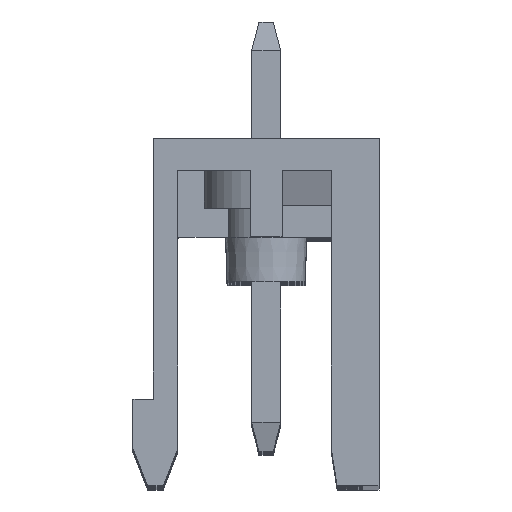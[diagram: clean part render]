
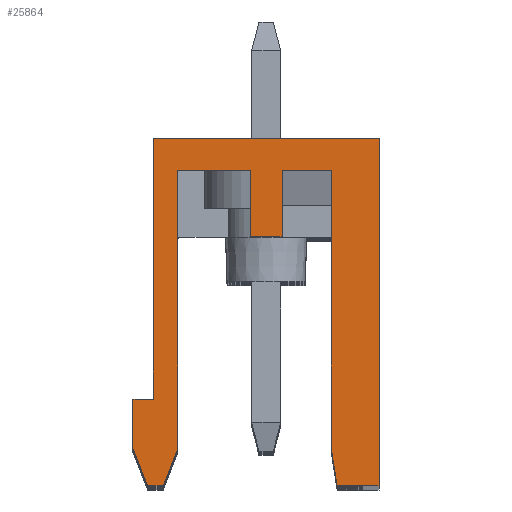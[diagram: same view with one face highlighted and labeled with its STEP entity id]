
A CAD part, top view. The second image highlights one B-rep face of the part: STEP entity #25864.
In plain terms, the highlighted planar face has unit normal (0, 0, 1).
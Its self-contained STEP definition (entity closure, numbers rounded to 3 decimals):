
#234 = LINE ( 'NONE', #22060, #21637 ) ;
#684 = DIRECTION ( 'NONE',  ( 0., 0., 1. ) ) ;
#1421 = LINE ( 'NONE', #19811, #16154 ) ;
#1643 = CARTESIAN_POINT ( 'NONE',  ( 0.55, 10.9, 81.28 ) ) ;
#2100 = VECTOR ( 'NONE', #17251, 1000. ) ;
#2362 = EDGE_LOOP ( 'NONE', ( #31686, #16369, #15954, #36707, #12159, #26760, #14113, #8606, #8166, #11116, #8283, #37420, #20541, #34530, #33192, #8076, #26877 ) ) ;
#2365 = EDGE_CURVE ( 'NONE', #8182, #34683, #20418, .T. ) ;
#2398 = CARTESIAN_POINT ( 'NONE',  ( -4.1, 0., 81.28 ) ) ;
#2531 = CARTESIAN_POINT ( 'NONE',  ( 0.55, 8.6, 81.28 ) ) ;
#2707 = LINE ( 'NONE', #24528, #34017 ) ;
#2950 = CARTESIAN_POINT ( 'NONE',  ( 0.55, 8.6, 81.28 ) ) ;
#3028 = CARTESIAN_POINT ( 'NONE',  ( 0.55, 10.9, 81.28 ) ) ;
#3662 = LINE ( 'NONE', #39877, #27211 ) ;
#3708 = CARTESIAN_POINT ( 'NONE',  ( -3.55, 0., 81.28 ) ) ;
#4189 = VERTEX_POINT ( 'NONE', #34917 ) ;
#5408 = VERTEX_POINT ( 'NONE', #22411 ) ;
#6280 = VERTEX_POINT ( 'NONE', #1643 ) ;
#6688 = VERTEX_POINT ( 'NONE', #35164 ) ;
#7235 = VERTEX_POINT ( 'NONE', #23163 ) ;
#7827 = VERTEX_POINT ( 'NONE', #38218 ) ;
#8076 = ORIENTED_EDGE ( 'NONE', *, *, #23830, .T. ) ;
#8166 = ORIENTED_EDGE ( 'NONE', *, *, #35020, .F. ) ;
#8182 = VERTEX_POINT ( 'NONE', #20144 ) ;
#8283 = ORIENTED_EDGE ( 'NONE', *, *, #30448, .T. ) ;
#8586 = CARTESIAN_POINT ( 'NONE',  ( 0.55, 8.6, 81.28 ) ) ;
#8606 = ORIENTED_EDGE ( 'NONE', *, *, #13466, .F. ) ;
#8608 = CARTESIAN_POINT ( 'NONE',  ( 2.45, 0., 81.28 ) ) ;
#9103 = LINE ( 'NONE', #36612, #24222 ) ;
#9141 = DIRECTION ( 'NONE',  ( -1., 0., 0. ) ) ;
#9282 = DIRECTION ( 'NONE',  ( 1., 0., 0. ) ) ;
#9648 = DIRECTION ( 'NONE',  ( -1., 0., 0. ) ) ;
#9724 = EDGE_CURVE ( 'NONE', #13902, #7235, #29948, .T. ) ;
#9977 = LINE ( 'NONE', #12818, #18402 ) ;
#10463 = VERTEX_POINT ( 'NONE', #8608 ) ;
#10576 = CARTESIAN_POINT ( 'NONE',  ( -0.55, 10.9, 81.28 ) ) ;
#11116 = ORIENTED_EDGE ( 'NONE', *, *, #24545, .F. ) ;
#11731 = LINE ( 'NONE', #17403, #25940 ) ;
#12159 = ORIENTED_EDGE ( 'NONE', *, *, #9724, .T. ) ;
#12818 = CARTESIAN_POINT ( 'NONE',  ( 2.25, 10.9, 81.28 ) ) ;
#13313 = VECTOR ( 'NONE', #9282, 1000. ) ;
#13374 = DIRECTION ( 'NONE',  ( -0.359, 0.933, 0. ) ) ;
#13466 = EDGE_CURVE ( 'NONE', #25371, #25822, #234, .T. ) ;
#13902 = VERTEX_POINT ( 'NONE', #15548 ) ;
#14113 = ORIENTED_EDGE ( 'NONE', *, *, #15470, .T. ) ;
#14225 = LINE ( 'NONE', #10576, #2100 ) ;
#14577 = DIRECTION ( 'NONE',  ( 0., -1., 0. ) ) ;
#14783 = CARTESIAN_POINT ( 'NONE',  ( -4.6, 3., 81.28 ) ) ;
#15146 = LINE ( 'NONE', #3028, #13313 ) ;
#15470 = EDGE_CURVE ( 'NONE', #35078, #25822, #37149, .T. ) ;
#15548 = CARTESIAN_POINT ( 'NONE',  ( -4.6, 3., 81.28 ) ) ;
#15833 = VECTOR ( 'NONE', #28235, 1000. ) ;
#15954 = ORIENTED_EDGE ( 'NONE', *, *, #2365, .T. ) ;
#16154 = VECTOR ( 'NONE', #25879, 1000. ) ;
#16369 = ORIENTED_EDGE ( 'NONE', *, *, #28142, .T. ) ;
#16639 = DIRECTION ( 'NONE',  ( 1., 0., 0. ) ) ;
#17251 = DIRECTION ( 'NONE',  ( -1., 0., 0. ) ) ;
#17403 = CARTESIAN_POINT ( 'NONE',  ( 2.25, 1.3, 81.28 ) ) ;
#17592 = CARTESIAN_POINT ( 'NONE',  ( -3.05, 1.3, 81.28 ) ) ;
#17757 = LINE ( 'NONE', #2398, #17824 ) ;
#17824 = VECTOR ( 'NONE', #13374, 1000. ) ;
#18094 = LINE ( 'NONE', #2531, #28546 ) ;
#18402 = VECTOR ( 'NONE', #28583, 1000. ) ;
#18839 = EDGE_CURVE ( 'NONE', #30950, #6280, #30458, .T. ) ;
#19135 = CARTESIAN_POINT ( 'NONE',  ( 3.9, 12., 81.28 ) ) ;
#19811 = CARTESIAN_POINT ( 'NONE',  ( 3.9, 0., 81.28 ) ) ;
#19868 = CARTESIAN_POINT ( 'NONE',  ( 3.9, 12., 81.28 ) ) ;
#19872 = CARTESIAN_POINT ( 'NONE',  ( -10.2, 16.267, 81.28 ) ) ;
#20144 = CARTESIAN_POINT ( 'NONE',  ( -3.9, 12., 81.28 ) ) ;
#20418 = LINE ( 'NONE', #36204, #27104 ) ;
#20541 = ORIENTED_EDGE ( 'NONE', *, *, #18839, .T. ) ;
#20574 = VERTEX_POINT ( 'NONE', #19868 ) ;
#20695 = DIRECTION ( 'NONE',  ( 0., -1., 0. ) ) ;
#21033 = DIRECTION ( 'NONE',  ( 1., 0., 0. ) ) ;
#21040 = EDGE_CURVE ( 'NONE', #5408, #20574, #1421, .T. ) ;
#21637 = VECTOR ( 'NONE', #34402, 1000. ) ;
#21969 = CARTESIAN_POINT ( 'NONE',  ( -4.1, 0., 81.28 ) ) ;
#22060 = CARTESIAN_POINT ( 'NONE',  ( -3.05, 1.3, 81.28 ) ) ;
#22143 = AXIS2_PLACEMENT_3D ( 'NONE', #19872, #684, #16639 ) ;
#22411 = CARTESIAN_POINT ( 'NONE',  ( 3.9, 0., 81.28 ) ) ;
#23041 = EDGE_CURVE ( 'NONE', #30950, #31277, #18094, .T. ) ;
#23163 = CARTESIAN_POINT ( 'NONE',  ( -4.6, 1.3, 81.28 ) ) ;
#23612 = EDGE_CURVE ( 'NONE', #34683, #13902, #3662, .T. ) ;
#23830 = EDGE_CURVE ( 'NONE', #24179, #10463, #11731, .T. ) ;
#24142 = DIRECTION ( 'NONE',  ( -1., 0., 0. ) ) ;
#24179 = VERTEX_POINT ( 'NONE', #26593 ) ;
#24222 = VECTOR ( 'NONE', #21033, 1000. ) ;
#24528 = CARTESIAN_POINT ( 'NONE',  ( -3.05, 10.9, 81.28 ) ) ;
#24545 = EDGE_CURVE ( 'NONE', #6688, #7827, #14225, .T. ) ;
#25371 = VERTEX_POINT ( 'NONE', #17592 ) ;
#25822 = VERTEX_POINT ( 'NONE', #3708 ) ;
#25864 = ADVANCED_FACE ( 'NONE', ( #37890 ), #28383, .T. ) ;
#25879 = DIRECTION ( 'NONE',  ( 0., 1., 0. ) ) ;
#25940 = VECTOR ( 'NONE', #39636, 1000. ) ;
#26593 = CARTESIAN_POINT ( 'NONE',  ( 2.25, 1.3, 81.28 ) ) ;
#26760 = ORIENTED_EDGE ( 'NONE', *, *, #34035, .F. ) ;
#26877 = ORIENTED_EDGE ( 'NONE', *, *, #27657, .T. ) ;
#26884 = VECTOR ( 'NONE', #31959, 1000. ) ;
#27104 = VECTOR ( 'NONE', #32753, 1000. ) ;
#27108 = VECTOR ( 'NONE', #14577, 1000. ) ;
#27211 = VECTOR ( 'NONE', #9141, 1000. ) ;
#27657 = EDGE_CURVE ( 'NONE', #10463, #5408, #9103, .T. ) ;
#28142 = EDGE_CURVE ( 'NONE', #20574, #8182, #31870, .T. ) ;
#28235 = DIRECTION ( 'NONE',  ( 1., 0., 0. ) ) ;
#28383 = PLANE ( 'NONE',  #22143 ) ;
#28546 = VECTOR ( 'NONE', #24142, 1000. ) ;
#28583 = DIRECTION ( 'NONE',  ( 0., -1., 0. ) ) ;
#29948 = LINE ( 'NONE', #14783, #27108 ) ;
#29979 = CARTESIAN_POINT ( 'NONE',  ( -0.55, 8.6, 81.28 ) ) ;
#30448 = EDGE_CURVE ( 'NONE', #6688, #31277, #34601, .T. ) ;
#30458 = LINE ( 'NONE', #2950, #35427 ) ;
#30654 = EDGE_CURVE ( 'NONE', #6280, #4189, #15146, .T. ) ;
#30950 = VERTEX_POINT ( 'NONE', #8586 ) ;
#31086 = EDGE_CURVE ( 'NONE', #4189, #24179, #9977, .T. ) ;
#31277 = VERTEX_POINT ( 'NONE', #29979 ) ;
#31356 = VECTOR ( 'NONE', #9648, 1000. ) ;
#31686 = ORIENTED_EDGE ( 'NONE', *, *, #21040, .T. ) ;
#31870 = LINE ( 'NONE', #19135, #31356 ) ;
#31959 = DIRECTION ( 'NONE',  ( 0., -1., 0. ) ) ;
#32753 = DIRECTION ( 'NONE',  ( 0., -1., 0. ) ) ;
#33192 = ORIENTED_EDGE ( 'NONE', *, *, #31086, .T. ) ;
#34017 = VECTOR ( 'NONE', #20695, 1000. ) ;
#34035 = EDGE_CURVE ( 'NONE', #35078, #7235, #17757, .T. ) ;
#34235 = CARTESIAN_POINT ( 'NONE',  ( -4.1, 0., 81.28 ) ) ;
#34402 = DIRECTION ( 'NONE',  ( -0.359, -0.933, 0. ) ) ;
#34530 = ORIENTED_EDGE ( 'NONE', *, *, #30654, .T. ) ;
#34601 = LINE ( 'NONE', #38251, #26884 ) ;
#34683 = VERTEX_POINT ( 'NONE', #37912 ) ;
#34917 = CARTESIAN_POINT ( 'NONE',  ( 2.25, 10.9, 81.28 ) ) ;
#35020 = EDGE_CURVE ( 'NONE', #7827, #25371, #2707, .T. ) ;
#35078 = VERTEX_POINT ( 'NONE', #34235 ) ;
#35164 = CARTESIAN_POINT ( 'NONE',  ( -0.55, 10.9, 81.28 ) ) ;
#35427 = VECTOR ( 'NONE', #36930, 1000. ) ;
#36204 = CARTESIAN_POINT ( 'NONE',  ( -3.9, 12., 81.28 ) ) ;
#36612 = CARTESIAN_POINT ( 'NONE',  ( 2.45, 0., 81.28 ) ) ;
#36707 = ORIENTED_EDGE ( 'NONE', *, *, #23612, .T. ) ;
#36930 = DIRECTION ( 'NONE',  ( 0., 1., 0. ) ) ;
#37149 = LINE ( 'NONE', #21969, #15833 ) ;
#37420 = ORIENTED_EDGE ( 'NONE', *, *, #23041, .F. ) ;
#37890 = FACE_OUTER_BOUND ( 'NONE', #2362, .T. ) ;
#37912 = CARTESIAN_POINT ( 'NONE',  ( -3.9, 3., 81.28 ) ) ;
#38218 = CARTESIAN_POINT ( 'NONE',  ( -3.05, 10.9, 81.28 ) ) ;
#38251 = CARTESIAN_POINT ( 'NONE',  ( -0.55, 10.9, 81.28 ) ) ;
#39636 = DIRECTION ( 'NONE',  ( 0.152, -0.988, 0. ) ) ;
#39877 = CARTESIAN_POINT ( 'NONE',  ( -3.9, 3., 81.28 ) ) ;
